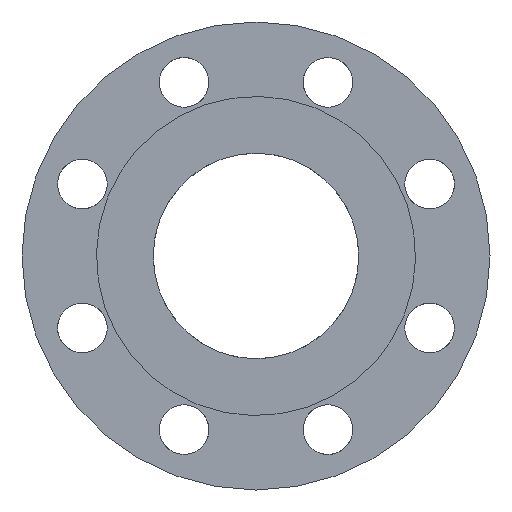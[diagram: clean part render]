
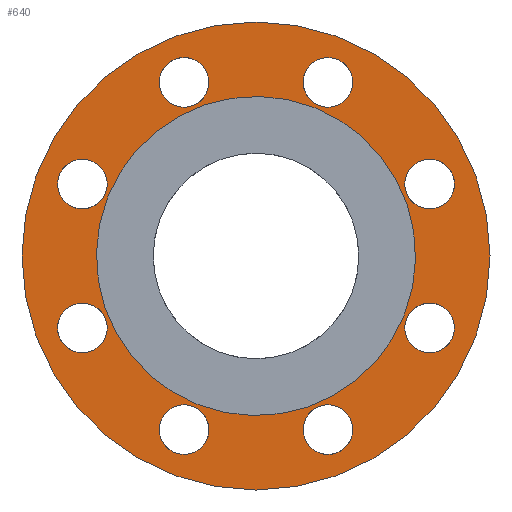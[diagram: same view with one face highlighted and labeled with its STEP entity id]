
A CAD part, front view. The second image highlights one B-rep face of the part: STEP entity #640.
In plain terms, the highlighted planar face has unit normal (0, -1, 0).
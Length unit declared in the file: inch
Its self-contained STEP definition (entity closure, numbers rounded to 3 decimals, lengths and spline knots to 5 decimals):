
#23=PLANE('',#722);
#74=FACE_BOUND('',#219,.T.);
#75=FACE_BOUND('',#220,.T.);
#76=FACE_BOUND('',#221,.T.);
#77=FACE_BOUND('',#222,.T.);
#78=FACE_BOUND('',#223,.T.);
#79=FACE_BOUND('',#224,.T.);
#80=FACE_BOUND('',#225,.T.);
#81=FACE_BOUND('',#226,.T.);
#82=FACE_BOUND('',#227,.T.);
#131=FACE_OUTER_BOUND('',#218,.T.);
#218=EDGE_LOOP('',(#503));
#219=EDGE_LOOP('',(#504));
#220=EDGE_LOOP('',(#505));
#221=EDGE_LOOP('',(#506));
#222=EDGE_LOOP('',(#507));
#223=EDGE_LOOP('',(#508));
#224=EDGE_LOOP('',(#509));
#225=EDGE_LOOP('',(#510));
#226=EDGE_LOOP('',(#511));
#227=EDGE_LOOP('',(#512));
#292=CIRCLE('',#716,2.8125);
#295=CIRCLE('',#723,4.125);
#296=CIRCLE('',#724,0.4375);
#297=CIRCLE('',#725,0.4375);
#298=CIRCLE('',#726,0.4375);
#299=CIRCLE('',#727,0.4375);
#300=CIRCLE('',#728,0.4375);
#301=CIRCLE('',#729,0.4375);
#302=CIRCLE('',#730,0.4375);
#303=CIRCLE('',#731,0.4375);
#349=VERTEX_POINT('',#1049);
#352=VERTEX_POINT('',#1059);
#353=VERTEX_POINT('',#1061);
#354=VERTEX_POINT('',#1063);
#355=VERTEX_POINT('',#1065);
#356=VERTEX_POINT('',#1067);
#357=VERTEX_POINT('',#1069);
#358=VERTEX_POINT('',#1071);
#359=VERTEX_POINT('',#1073);
#360=VERTEX_POINT('',#1075);
#406=EDGE_CURVE('',#349,#349,#292,.T.);
#409=EDGE_CURVE('',#352,#352,#295,.T.);
#410=EDGE_CURVE('',#353,#353,#296,.T.);
#411=EDGE_CURVE('',#354,#354,#297,.T.);
#412=EDGE_CURVE('',#355,#355,#298,.T.);
#413=EDGE_CURVE('',#356,#356,#299,.T.);
#414=EDGE_CURVE('',#357,#357,#300,.T.);
#415=EDGE_CURVE('',#358,#358,#301,.T.);
#416=EDGE_CURVE('',#359,#359,#302,.T.);
#417=EDGE_CURVE('',#360,#360,#303,.T.);
#503=ORIENTED_EDGE('',*,*,#409,.F.);
#504=ORIENTED_EDGE('',*,*,#406,.T.);
#505=ORIENTED_EDGE('',*,*,#410,.T.);
#506=ORIENTED_EDGE('',*,*,#411,.T.);
#507=ORIENTED_EDGE('',*,*,#412,.T.);
#508=ORIENTED_EDGE('',*,*,#413,.T.);
#509=ORIENTED_EDGE('',*,*,#414,.T.);
#510=ORIENTED_EDGE('',*,*,#415,.T.);
#511=ORIENTED_EDGE('',*,*,#416,.T.);
#512=ORIENTED_EDGE('',*,*,#417,.T.);
#640=ADVANCED_FACE('',(#131,#74,#75,#76,#77,#78,#79,#80,#81,#82),#23,.F.);
#716=AXIS2_PLACEMENT_3D('',#1050,#879,#880);
#722=AXIS2_PLACEMENT_3D('',#1058,#891,#892);
#723=AXIS2_PLACEMENT_3D('',#1060,#893,#894);
#724=AXIS2_PLACEMENT_3D('',#1062,#895,#896);
#725=AXIS2_PLACEMENT_3D('',#1064,#897,#898);
#726=AXIS2_PLACEMENT_3D('',#1066,#899,#900);
#727=AXIS2_PLACEMENT_3D('',#1068,#901,#902);
#728=AXIS2_PLACEMENT_3D('',#1070,#903,#904);
#729=AXIS2_PLACEMENT_3D('',#1072,#905,#906);
#730=AXIS2_PLACEMENT_3D('',#1074,#907,#908);
#731=AXIS2_PLACEMENT_3D('',#1076,#909,#910);
#879=DIRECTION('center_axis',(0.,1.,0.));
#880=DIRECTION('ref_axis',(-0.48,0.,0.877));
#891=DIRECTION('center_axis',(0.,1.,0.));
#892=DIRECTION('ref_axis',(0.,0.,-1.));
#893=DIRECTION('center_axis',(0.,1.,0.));
#894=DIRECTION('ref_axis',(-1.,0.,0.));
#895=DIRECTION('center_axis',(0.,1.,0.));
#896=DIRECTION('ref_axis',(-1.,0.,0.));
#897=DIRECTION('center_axis',(0.,1.,0.));
#898=DIRECTION('ref_axis',(-0.707,0.,-0.707));
#899=DIRECTION('center_axis',(0.,1.,0.));
#900=DIRECTION('ref_axis',(0.,0.,-1.));
#901=DIRECTION('center_axis',(0.,1.,0.));
#902=DIRECTION('ref_axis',(0.707,0.,-0.707));
#903=DIRECTION('center_axis',(0.,1.,0.));
#904=DIRECTION('ref_axis',(1.,0.,0.));
#905=DIRECTION('center_axis',(0.,1.,0.));
#906=DIRECTION('ref_axis',(0.707,0.,0.707));
#907=DIRECTION('center_axis',(0.,1.,0.));
#908=DIRECTION('ref_axis',(0.,0.,1.));
#909=DIRECTION('center_axis',(0.,1.,0.));
#910=DIRECTION('ref_axis',(-0.707,0.,0.707));
#1049=CARTESIAN_POINT('',(1.3501,0.375,-2.46726));
#1050=CARTESIAN_POINT('Origin',(0.,0.375,
0.));
#1058=CARTESIAN_POINT('Origin',(0.,0.375,
0.));
#1059=CARTESIAN_POINT('',(4.125,0.375,0.));
#1060=CARTESIAN_POINT('Origin',(0.,0.375,
0.));
#1061=CARTESIAN_POINT('',(-1.70514,0.375,3.06035));
#1062=CARTESIAN_POINT('Origin',(-1.26764,0.375,3.06035));
#1063=CARTESIAN_POINT('',(-3.36971,0.375,0.95828));
#1064=CARTESIAN_POINT('Origin',(-3.06035,0.375,1.26764));
#1065=CARTESIAN_POINT('',(-3.06035,0.375,-1.70514));
#1066=CARTESIAN_POINT('Origin',(-3.06035,0.375,-1.26764));
#1067=CARTESIAN_POINT('',(-0.95828,0.375,-3.36971));
#1068=CARTESIAN_POINT('Origin',(-1.26764,0.375,-3.06035));
#1069=CARTESIAN_POINT('',(1.70514,0.375,-3.06035));
#1070=CARTESIAN_POINT('Origin',(1.26764,0.375,-3.06035));
#1071=CARTESIAN_POINT('',(3.36971,0.375,-0.95828));
#1072=CARTESIAN_POINT('Origin',(3.06035,0.375,-1.26764));
#1073=CARTESIAN_POINT('',(3.06035,0.375,1.70514));
#1074=CARTESIAN_POINT('Origin',(3.06035,0.375,1.26764));
#1075=CARTESIAN_POINT('',(0.95828,0.375,3.36971));
#1076=CARTESIAN_POINT('Origin',(1.26764,0.375,3.06035));
